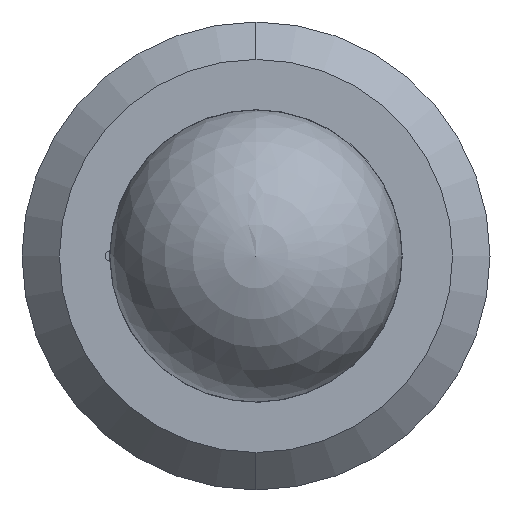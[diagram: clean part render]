
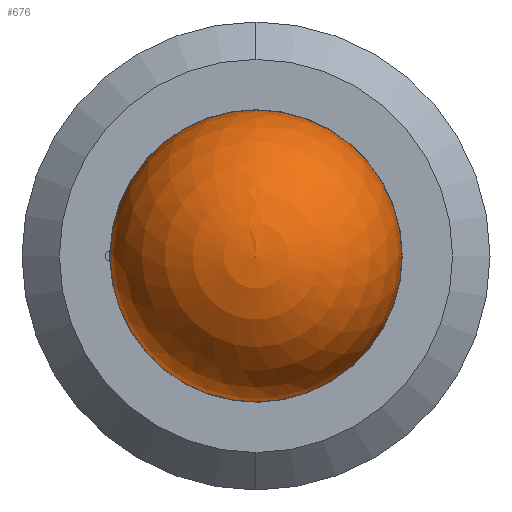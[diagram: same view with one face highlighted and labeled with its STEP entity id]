
A CAD part, left-side view. The second image highlights one B-rep face of the part: STEP entity #676.
In plain terms, the highlighted spherical face has radius 1.984 mm.
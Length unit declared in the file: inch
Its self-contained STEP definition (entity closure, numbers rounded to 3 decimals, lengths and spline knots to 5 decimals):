
#38 = CARTESIAN_POINT ( 'NONE',  ( 0., 0., 0. ) ) ;
#45 = SPHERICAL_SURFACE ( 'NONE', #711, 0.07813 ) ;
#114 = DIRECTION ( 'NONE',  ( -1., 0., 0. ) ) ;
#166 = CARTESIAN_POINT ( 'NONE',  ( 0., -0.07813, 0. ) ) ;
#173 = CARTESIAN_POINT ( 'NONE',  ( 0., 0., 0. ) ) ;
#194 = DIRECTION ( 'NONE',  ( 0., 0., 1. ) ) ;
#216 = AXIS2_PLACEMENT_3D ( 'NONE', #173, #660, #252 ) ;
#222 = DIRECTION ( 'NONE',  ( -1., 0., 0. ) ) ;
#236 = CIRCLE ( 'NONE', #216, 0.07813 ) ;
#252 = DIRECTION ( 'NONE',  ( 0., 0., -1. ) ) ;
#261 = CIRCLE ( 'NONE', #313, 0.07813 ) ;
#308 = ORIENTED_EDGE ( 'NONE', *, *, #504, .T. ) ;
#313 = AXIS2_PLACEMENT_3D ( 'NONE', #367, #843, #435 ) ;
#367 = CARTESIAN_POINT ( 'NONE',  ( 0., 0., 0. ) ) ;
#369 = ORIENTED_EDGE ( 'NONE', *, *, #506, .T. ) ;
#426 = CARTESIAN_POINT ( 'NONE',  ( 0., 0.07809, -0.0025 ) ) ;
#428 = VERTEX_POINT ( 'NONE', #426 ) ;
#435 = DIRECTION ( 'NONE',  ( 0., 0., 1. ) ) ;
#474 = AXIS2_PLACEMENT_3D ( 'NONE', #637, #222, #703 ) ;
#504 = EDGE_CURVE ( 'NONE', #726, #428, #785, .T. ) ;
#506 = EDGE_CURVE ( 'NONE', #428, #862, #261, .T. ) ;
#517 = EDGE_CURVE ( 'NONE', #726, #862, #236, .T. ) ;
#545 = CARTESIAN_POINT ( 'NONE',  ( 0., 0.07809, 0.0025 ) ) ;
#584 = ORIENTED_EDGE ( 'NONE', *, *, #517, .F. ) ;
#585 = FACE_OUTER_BOUND ( 'NONE', #883, .T. ) ;
#637 = CARTESIAN_POINT ( 'NONE',  ( 0., 0., 0. ) ) ;
#660 = DIRECTION ( 'NONE',  ( 1., 0., 0. ) ) ;
#676 = ADVANCED_FACE ( 'NONE', ( #585 ), #45, .T. ) ;
#703 = DIRECTION ( 'NONE',  ( 0., 0., 1. ) ) ;
#711 = AXIS2_PLACEMENT_3D ( 'NONE', #38, #114, #194 ) ;
#726 = VERTEX_POINT ( 'NONE', #545 ) ;
#785 = CIRCLE ( 'NONE', #474, 0.07813 ) ;
#843 = DIRECTION ( 'NONE',  ( -1., 0., 0. ) ) ;
#862 = VERTEX_POINT ( 'NONE', #166 ) ;
#883 = EDGE_LOOP ( 'NONE', ( #308, #369, #584 ) ) ;
